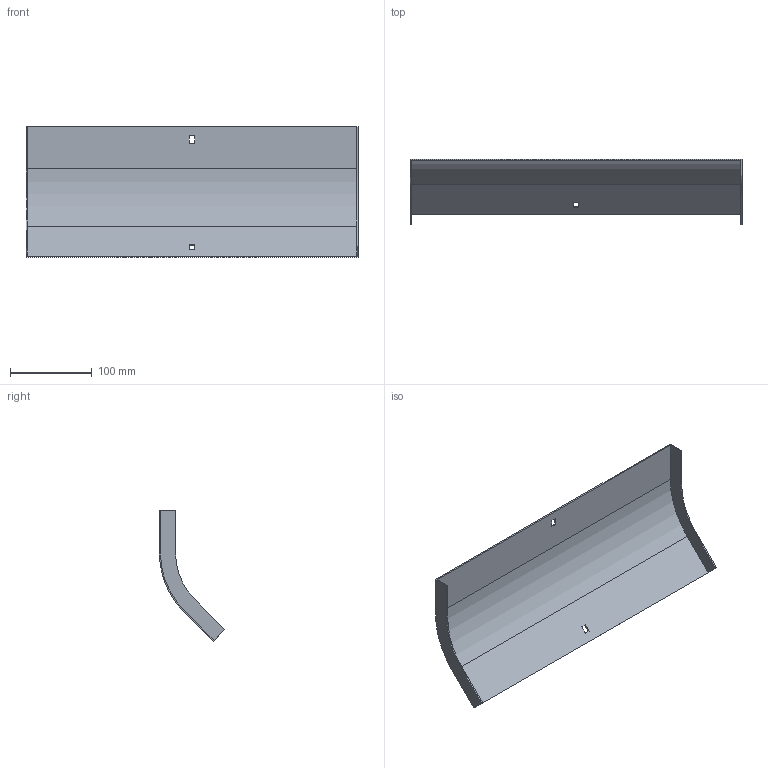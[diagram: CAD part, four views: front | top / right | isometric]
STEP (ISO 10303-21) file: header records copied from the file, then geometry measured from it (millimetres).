
FILE_DESCRIPTION (( 'STEP AP214' ), '1' );
FILE_NAME ('34G1B400.step', '2025-02-21T12:43:00', ( '' ), ( '' ), 'SwSTEP 2.0', 'SolidWorks 2023', '' );
FILE_SCHEMA (( 'AUTOMOTIVE_DESIGN' ));
Length unit declared in the file: millimetre
Products named in the file (1): 34G1B400
Bounding box: 407 x 80.32 x 159.76 mm (x, y, z)
Volume: 120739.7 mm3; surface area: 162914.3 mm2
Topology: 1 solids, 1 shells, 26 faces, 72 edges, 48 vertices
Faces by surface type: plane 22, cylinder 4
Entity records: 855 total; most frequent: CARTESIAN_POINT 147, ORIENTED_EDGE 144, DIRECTION 134, EDGE_CURVE 72, VECTOR 64, LINE 64, VERTEX_POINT 48, AXIS2_PLACEMENT_3D 35
